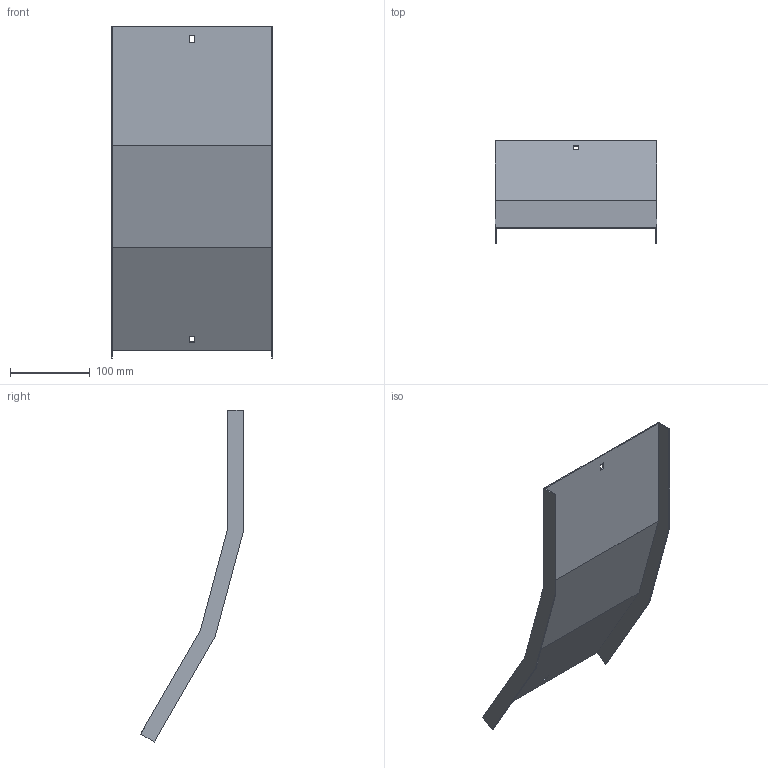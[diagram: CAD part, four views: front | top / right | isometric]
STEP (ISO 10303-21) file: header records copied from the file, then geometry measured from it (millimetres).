
FILE_DESCRIPTION (( 'STEP AP214' ), '1' );
FILE_NAME ('A2X32N5R200X.step', '2025-03-20T09:39:20', ( '' ), ( '' ), 'SwSTEP 2.0', 'SolidWorks 2023', '' );
FILE_SCHEMA (( 'AUTOMOTIVE_DESIGN' ));
Length unit declared in the file: millimetre
Products named in the file (1): A2X32N5R200X
Bounding box: 203 x 128.96 x 416.64 mm (x, y, z)
Volume: 155491 mm3; surface area: 209458.3 mm2
Topology: 1 solids, 1 shells, 26 faces, 72 edges, 48 vertices
Faces by surface type: plane 26
Entity records: 847 total; most frequent: CARTESIAN_POINT 147, ORIENTED_EDGE 144, DIRECTION 126, EDGE_CURVE 72, VECTOR 72, LINE 72, VERTEX_POINT 48, EDGE_LOOP 30
